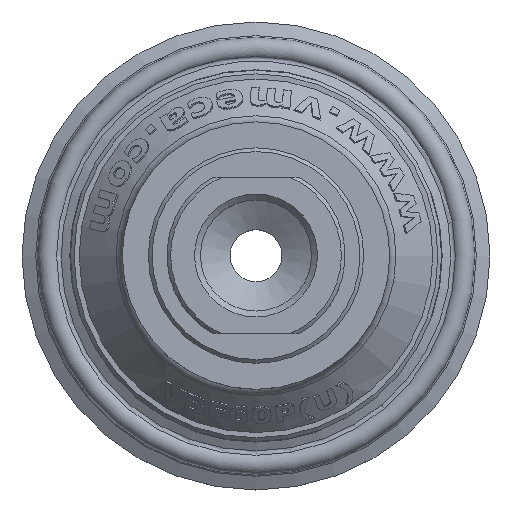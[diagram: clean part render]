
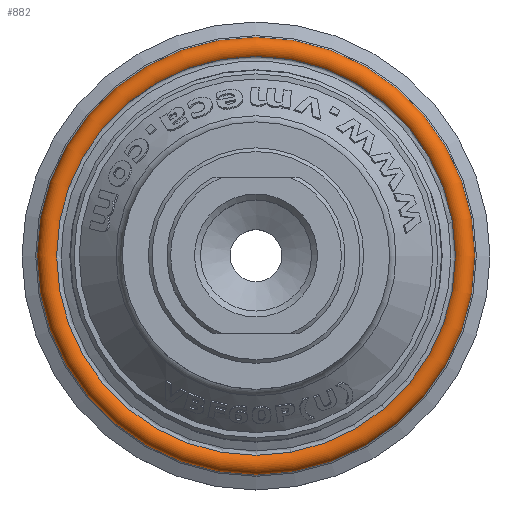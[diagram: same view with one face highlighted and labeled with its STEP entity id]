
A CAD part, top view. The second image highlights one B-rep face of the part: STEP entity #882.
In plain terms, the highlighted toroidal (fillet/blend) face has major radius 27.948 mm and minor radius 1.5 mm.
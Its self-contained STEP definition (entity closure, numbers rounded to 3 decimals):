
#882 = ADVANCED_FACE( '', ( #1889, #1890 ), #1891, .T. );
#1889 = FACE_OUTER_BOUND( '', #9000, .T. );
#1890 = FACE_OUTER_BOUND( '', #9001, .T. );
#1891 = TOROIDAL_SURFACE( '', #9002, 27.948, 1.5 );
#9000 = EDGE_LOOP( '', ( #11894 ) );
#9001 = EDGE_LOOP( '', ( #11895 ) );
#9002 = AXIS2_PLACEMENT_3D( '', #11896, #11897, #11898 );
#11894 = ORIENTED_EDGE( '', *, *, #13153, .T. );
#11895 = ORIENTED_EDGE( '', *, *, #12934, .F. );
#11896 = CARTESIAN_POINT( '', ( 0., 0., -18.984 ) );
#11897 = DIRECTION( '', ( 0., 0., 1. ) );
#11898 = DIRECTION( '', ( 1., 0., 0. ) );
#12934 = EDGE_CURVE( '', #14398, #14398, #14399, .T. );
#13153 = EDGE_CURVE( '', #14660, #14660, #14661, .T. );
#14398 = VERTEX_POINT( '', #20677 );
#14399 = CIRCLE( '', #20678, 26.842 );
#14660 = VERTEX_POINT( '', #21604 );
#14661 = CIRCLE( '', #21605, 29.407 );
#20677 = CARTESIAN_POINT( '', ( 26.842, 0., -17.971 ) );
#20678 = AXIS2_PLACEMENT_3D( '', #22038, #22039, #22040 );
#21604 = CARTESIAN_POINT( '', ( 29.407, 0., -19.335 ) );
#21605 = AXIS2_PLACEMENT_3D( '', #22114, #22115, #22116 );
#22038 = CARTESIAN_POINT( '', ( 0., 0., -17.971 ) );
#22039 = DIRECTION( '', ( 0., 0., 1. ) );
#22040 = DIRECTION( '', ( 1., 0., 0. ) );
#22114 = CARTESIAN_POINT( '', ( 0., 0., -19.335 ) );
#22115 = DIRECTION( '', ( 0., 0., 1. ) );
#22116 = DIRECTION( '', ( 1., 0., 0. ) );
